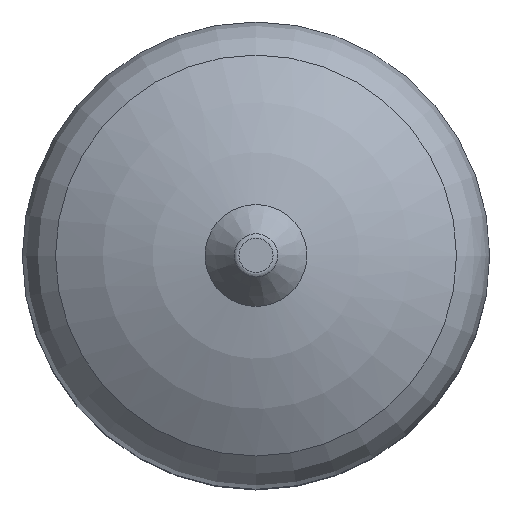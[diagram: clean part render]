
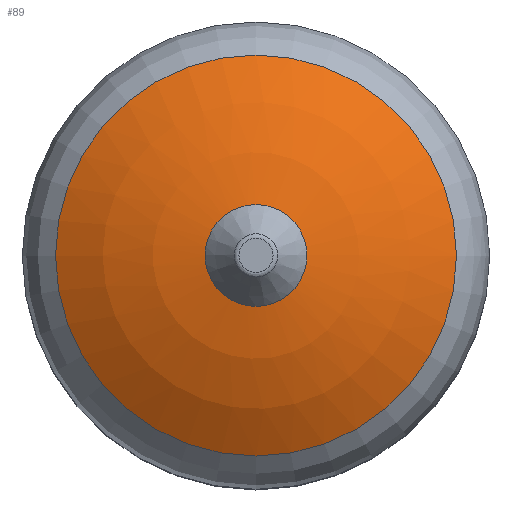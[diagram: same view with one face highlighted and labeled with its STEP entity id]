
A CAD part, top view. The second image highlights one B-rep face of the part: STEP entity #89.
In plain terms, the highlighted spherical face has radius 188 mm.
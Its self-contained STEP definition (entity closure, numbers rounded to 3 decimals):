
#89=ADVANCED_FACE('',(#415,#417),#419,.T.);
#415=FACE_BOUND('',#416,.T.);
#416=EDGE_LOOP('',(#591,#592));
#417=FACE_BOUND('',#418,.T.);
#418=EDGE_LOOP('',(#593,#594));
#419=SPHERICAL_SURFACE('',#420,188.);
#420=AXIS2_PLACEMENT_3D('',#421,#422,#423);
#421=CARTESIAN_POINT('',(0.,0.,145.853));
#422=DIRECTION('',(0.,0.,1.));
#423=DIRECTION('',(1.,0.,0.));
#591=ORIENTED_EDGE('',*,*,#676,.T.);
#592=ORIENTED_EDGE('',*,*,#675,.T.);
#593=ORIENTED_EDGE('',*,*,#677,.F.);
#594=ORIENTED_EDGE('',*,*,#678,.F.);
#675=EDGE_CURVE('',#823,#824,#825,.T.);
#676=EDGE_CURVE('',#824,#823,#826,.T.);
#677=EDGE_CURVE('',#827,#828,#829,.T.);
#678=EDGE_CURVE('',#828,#827,#830,.T.);
#823=VERTEX_POINT('',#1189);
#824=VERTEX_POINT('',#1190);
#825=CIRCLE('',#1191,100.803);
#826=CIRCLE('',#1195,100.803);
#827=VERTEX_POINT('',#1199);
#828=VERTEX_POINT('',#1200);
#829=CIRCLE('',#1201,25.618);
#830=CIRCLE('',#1205,25.618);
#1189=CARTESIAN_POINT('',(-100.803,0.,304.544));
#1190=CARTESIAN_POINT('',(100.803,0.,304.544));
#1191=AXIS2_PLACEMENT_3D('',#1192,#1193,#1194);
#1192=CARTESIAN_POINT('',(0.,0.,304.544));
#1193=DIRECTION('',(0.,0.,1.));
#1194=DIRECTION('',(-1.,0.,0.));
#1195=AXIS2_PLACEMENT_3D('',#1196,#1197,#1198);
#1196=CARTESIAN_POINT('',(0.,0.,304.544));
#1197=DIRECTION('',(0.,0.,1.));
#1198=DIRECTION('',(1.,0.,0.));
#1199=CARTESIAN_POINT('',(-25.618,0.,332.1));
#1200=CARTESIAN_POINT('',(25.618,0.,332.1));
#1201=AXIS2_PLACEMENT_3D('',#1202,#1203,#1204);
#1202=CARTESIAN_POINT('',(0.,0.,332.1));
#1203=DIRECTION('',(0.,0.,1.));
#1204=DIRECTION('',(-1.,0.,0.));
#1205=AXIS2_PLACEMENT_3D('',#1206,#1207,#1208);
#1206=CARTESIAN_POINT('',(0.,0.,332.1));
#1207=DIRECTION('',(0.,0.,1.));
#1208=DIRECTION('',(1.,0.,0.));
